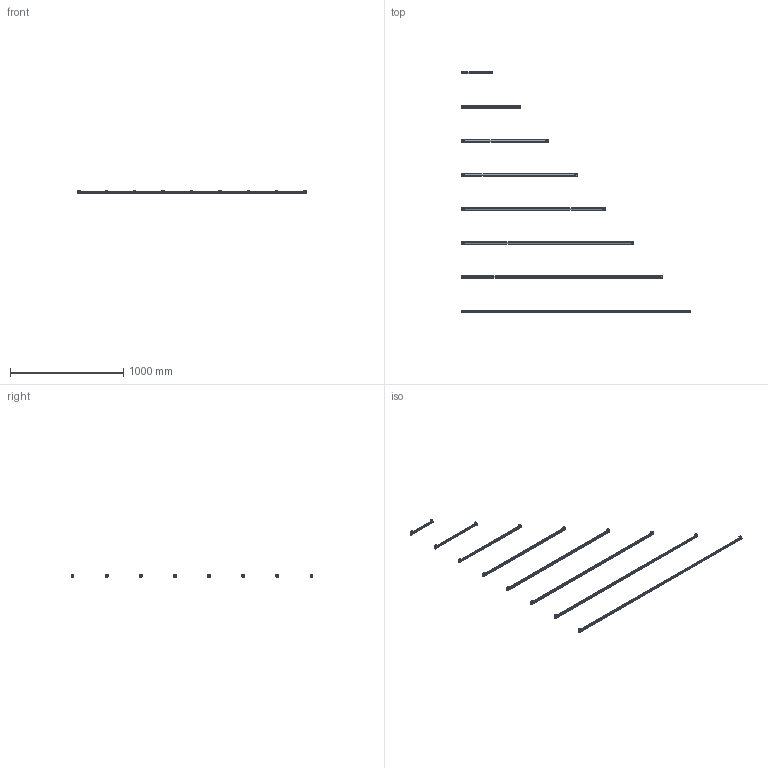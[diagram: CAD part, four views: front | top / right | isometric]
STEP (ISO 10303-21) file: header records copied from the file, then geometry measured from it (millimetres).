
FILE_DESCRIPTION(/* description */ (''),/* implementation_level */ '2;1');
FILE_NAME(/* name */ 'C:/Users/elena/OneDrive/Allegati di posta elettronica/Desktop/Piko colour 01B.step',/* time_stamp */ '2020-05-19T11:47:40+02:00',/* author */ (''),/* organization */ (''),/* preprocessor_version */ 'ST-DEVELOPER v18.1',/* originating_system */ 'Autodesk Translation Framework v9.3.0.1241',/* authorisation */ '');
FILE_SCHEMA (('AUTOMOTIVE_DESIGN { 1 0 10303 214 3 1 1 }'));
Products named in the file (2): (Unsaved); 01B
Assembly tree (1 placements, depth 2):
  (Unsaved)
    01B
Bounding box: 2020 x 2119.81 x 30.84 mm (x, y, z)
Volume: 2229286.3 mm3; surface area: 1089546.6 mm2
Topology: 48 solids, 48 shells, 1121 faces, 2696 edges, 1751 vertices
Faces by surface type: cylinder 528, plane 497, bspline 80, cone 16
Full cylindrical faces by diameter (mm): 2.5 x32, 3 x16, 7 x32, 19.8 x16
Entity records: 52816 total; most frequent: CARTESIAN_POINT 26101, DIRECTION 5696, ORIENTED_EDGE 5392, EDGE_CURVE 2696, AXIS2_PLACEMENT_3D 2116, VERTEX_POINT 1751, LINE 1464, VECTOR 1464
